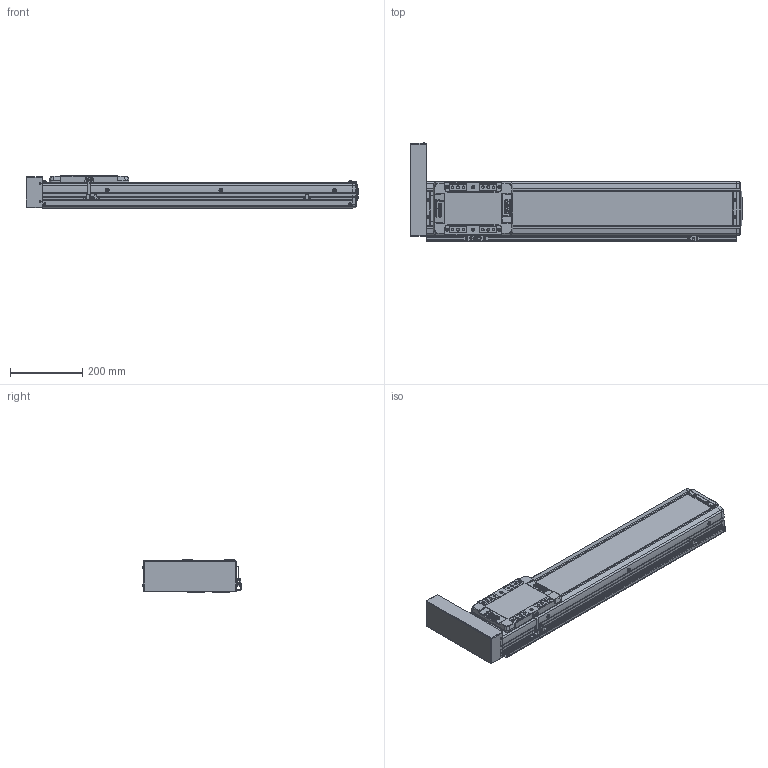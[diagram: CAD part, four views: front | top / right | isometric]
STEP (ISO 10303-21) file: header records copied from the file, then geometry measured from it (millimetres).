
FILE_DESCRIPTION(('STEP AP214'),'1');
FILE_NAME('Z:/Web/3D/SAN150/2013.04 (STP.)/SAN150ㅁㅁ-600PL+3SR.stp','2013-05-07T11:26:59',(' '),(' '),'Spatial InterOp 3D',' ',' ');
FILE_SCHEMA(('automotive_design'));
Length unit declared in the file: millimetre
Products named in the file (60): BHCS M3.0 x 6.0; P; SLBL-SAN150; SLCV-SAN150; FHCS M4.0 x 8.0; BHCS M4.0 x 10.0; SFX-SAN150; RRCV-SAN150; FRBL-SAN150; Spacer; RN15; FRCV-SAN150; Screw 20; BASE-SAN150-000L ; SUS COVER; 스크루 : Round - M5.0 x 6.0; M3.0 x 6.0; SRL-16x17-360L; SGD-SAN150; EE-SX674; SBK-SX674-352; 스크루 : Round - M3.0 x 6.0
Bounding box: 920 x 273.36 x 90 mm (x, y, z)
Volume: 6053542.1 mm3; surface area: 1121962.9 mm2
Topology: 60 solids, 60 shells, 2694 faces, 6916 edges, 4441 vertices
Faces by surface type: plane 1416, cylinder 875, cone 286, sphere 84, bspline 21, torus 12
Entity records: 106540 total; most frequent: CARTESIAN_POINT 16889, DIRECTION 14656, ORIENTED_EDGE 13592, EDGE_CURVE 6796, AXIS2_PLACEMENT_3D 5219, VERTEX_POINT 4441, LINE 4218, VECTOR 4218
